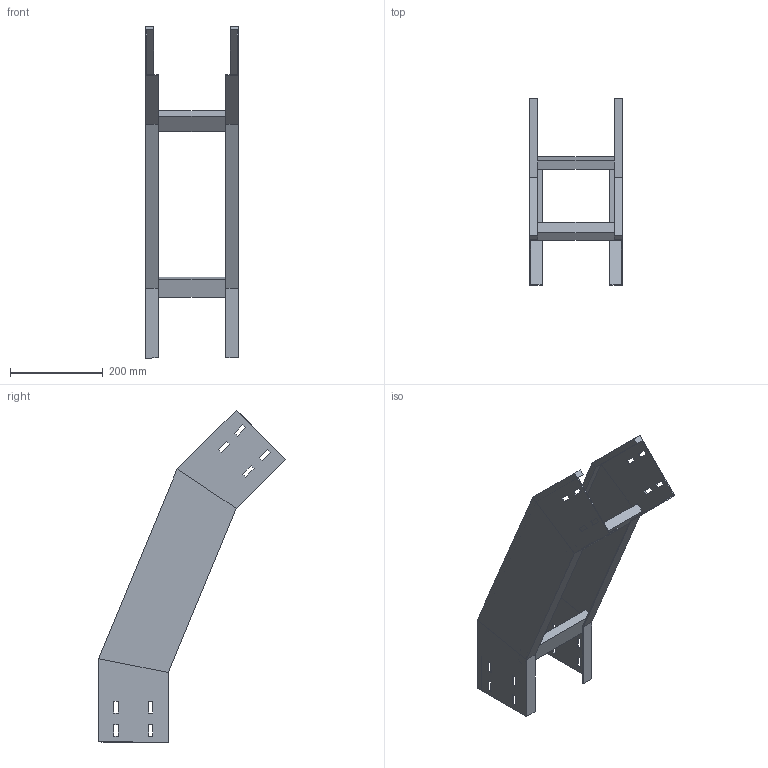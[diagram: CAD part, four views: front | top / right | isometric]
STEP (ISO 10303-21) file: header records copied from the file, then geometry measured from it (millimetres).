
FILE_DESCRIPTION (( 'STEP AP214' ), '1' );
FILE_NAME ('34J5F200.step', '2025-02-21T16:21:55', ( '' ), ( '' ), 'SwSTEP 2.0', 'SolidWorks 2023', '' );
FILE_SCHEMA (( 'AUTOMOTIVE_DESIGN' ));
Length unit declared in the file: millimetre
Products named in the file (3): 34J5F200; LONGH.DISCESA_45°_H150_R500; TRAVERSINO_200
Assembly tree (4 placements, depth 2):
  34J5F200
    LONGH.DISCESA_45°_H150_R500  x2
    TRAVERSINO_200  x2
Bounding box: 200 x 402.63 x 715.98 mm (x, y, z)
Volume: 1130572 mm3; surface area: 618785.9 mm2
Topology: 4 solids, 4 shells, 128 faces, 328 edges, 208 vertices
Faces by surface type: plane 128
Entity records: 2016 total; most frequent: CARTESIAN_POINT 339, ORIENTED_EDGE 328, DIRECTION 306, EDGE_CURVE 164, VECTOR 164, LINE 164, VERTEX_POINT 104, EDGE_LOOP 80
